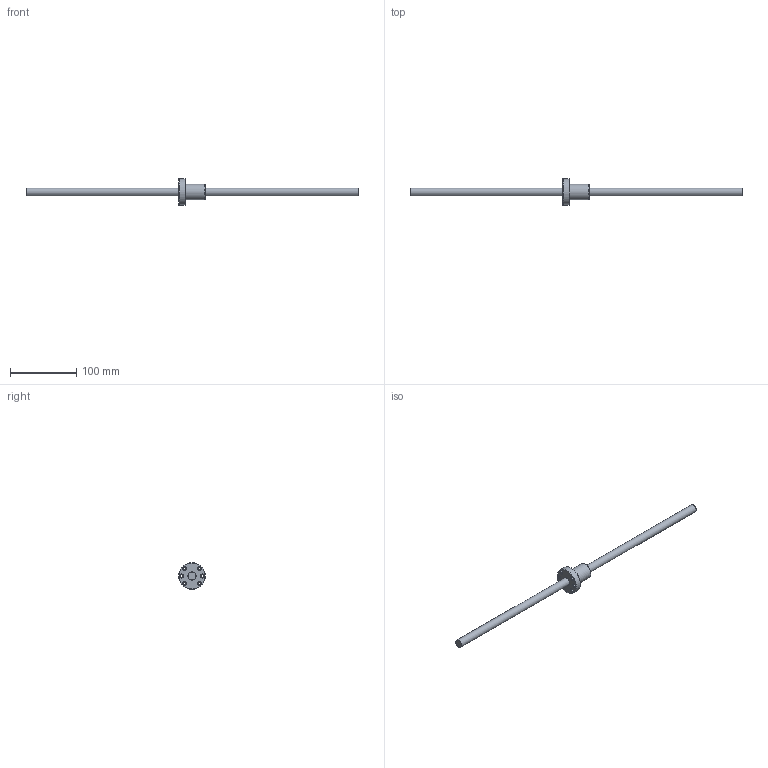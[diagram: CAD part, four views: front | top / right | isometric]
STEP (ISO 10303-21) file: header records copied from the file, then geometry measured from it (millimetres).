
FILE_DESCRIPTION (( 'STEP AP203' ), '1' );
FILE_NAME ('SFU01204N-4.step', '2024-05-14T07:04:29', ( '' ), ( '' ), 'SwSTEP 2.0', 'SolidWorks 2022', '' );
FILE_SCHEMA (( 'CONFIG_CONTROL_DESIGN' ));
Length unit declared in the file: millimetre
Products named in the file (1): SFU01204N-4
Bounding box: 500 x 40 x 40 mm (x, y, z)
Volume: 76666.7 mm3; surface area: 26959 mm2
Topology: 2 solids, 2 shells, 30 faces, 60 edges, 35 vertices
Faces by surface type: cone 12, cylinder 10, plane 5, torus 3
Full cylindrical faces by diameter (mm): 4.5 x6, 12 x1, 12.6 x1, 24 x1, 40 x1
Entity records: 757 total; most frequent: DIRECTION 132, CARTESIAN_POINT 101, ORIENTED_EDGE 70, EDGE_LOOP 70, AXIS2_PLACEMENT_3D 66, FACE_OUTER_BOUND 43, EDGE_CURVE 35, VERTEX_POINT 35
